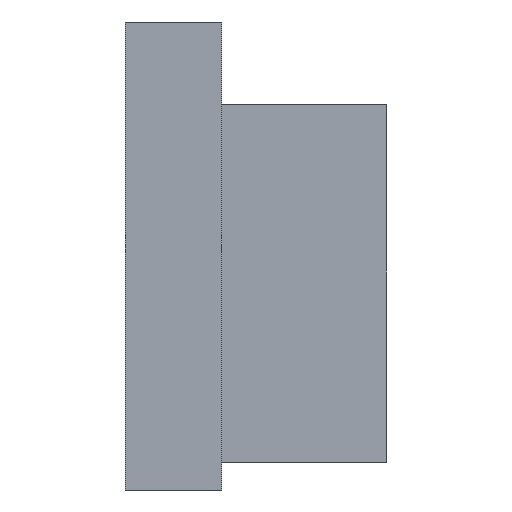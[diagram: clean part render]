
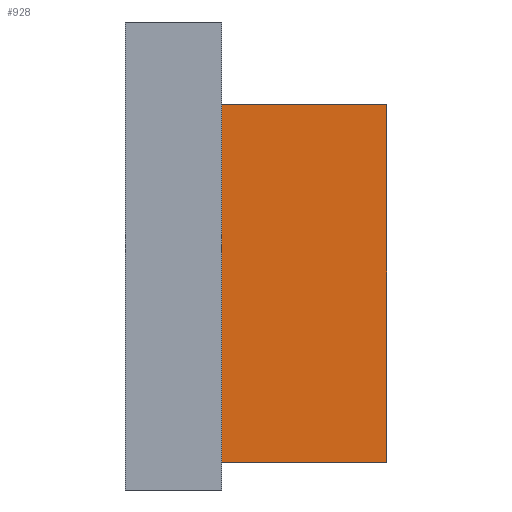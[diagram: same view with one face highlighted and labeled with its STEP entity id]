
A CAD part, left-side view. The second image highlights one B-rep face of the part: STEP entity #928.
In plain terms, the highlighted planar face has unit normal (-1, 0, 0).
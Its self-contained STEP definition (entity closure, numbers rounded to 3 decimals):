
#127 = PLANE('',#128);
#128 = AXIS2_PLACEMENT_3D('',#129,#130,#131);
#129 = CARTESIAN_POINT('',(-17.,-30.,-15.));
#130 = DIRECTION('',(0.,1.,0.));
#131 = DIRECTION('',(0.,-0.,1.));
#683 = VERTEX_POINT('',#684);
#684 = CARTESIAN_POINT('',(-8.,-30.,-14.));
#700 = PLANE('',#701);
#701 = AXIS2_PLACEMENT_3D('',#702,#703,#704);
#702 = CARTESIAN_POINT('',(-8.,-36.,-14.));
#703 = DIRECTION('',(0.,0.,1.));
#704 = DIRECTION('',(1.,0.,-0.));
#712 = EDGE_CURVE('',#713,#683,#715,.T.);
#713 = VERTEX_POINT('',#714);
#714 = CARTESIAN_POINT('',(-8.,-30.,-1.));
#715 = SURFACE_CURVE('',#716,(#720,#727),.PCURVE_S1.);
#716 = LINE('',#717,#718);
#717 = CARTESIAN_POINT('',(-8.,-30.,-15.));
#718 = VECTOR('',#719,1.);
#719 = DIRECTION('',(-0.,0.,-1.));
#720 = PCURVE('',#127,#721);
#721 = DEFINITIONAL_REPRESENTATION('',(#722),#726);
#722 = LINE('',#723,#724);
#723 = CARTESIAN_POINT('',(0.,9.));
#724 = VECTOR('',#725,1.);
#725 = DIRECTION('',(-1.,0.));
#726 = ( GEOMETRIC_REPRESENTATION_CONTEXT(2) 
PARAMETRIC_REPRESENTATION_CONTEXT() REPRESENTATION_CONTEXT('2D SPACE',''
  ) );
#727 = PCURVE('',#728,#733);
#728 = PLANE('',#729);
#729 = AXIS2_PLACEMENT_3D('',#730,#731,#732);
#730 = CARTESIAN_POINT('',(-8.,-36.,-14.));
#731 = DIRECTION('',(1.,0.,-0.));
#732 = DIRECTION('',(-0.,0.,-1.));
#733 = DEFINITIONAL_REPRESENTATION('',(#734),#738);
#734 = LINE('',#735,#736);
#735 = CARTESIAN_POINT('',(1.,6.));
#736 = VECTOR('',#737,1.);
#737 = DIRECTION('',(1.,0.));
#738 = ( GEOMETRIC_REPRESENTATION_CONTEXT(2) 
PARAMETRIC_REPRESENTATION_CONTEXT() REPRESENTATION_CONTEXT('2D SPACE',''
  ) );
#756 = PLANE('',#757);
#757 = AXIS2_PLACEMENT_3D('',#758,#759,#760);
#758 = CARTESIAN_POINT('',(-8.,-36.,-1.));
#759 = DIRECTION('',(0.,0.,1.));
#760 = DIRECTION('',(1.,0.,-0.));
#868 = PLANE('',#869);
#869 = AXIS2_PLACEMENT_3D('',#870,#871,#872);
#870 = CARTESIAN_POINT('',(-8.,-36.,-14.));
#871 = DIRECTION('',(0.,1.,0.));
#872 = DIRECTION('',(0.,-0.,1.));
#885 = VERTEX_POINT('',#886);
#886 = CARTESIAN_POINT('',(-8.,-36.,-14.));
#907 = EDGE_CURVE('',#683,#885,#908,.T.);
#908 = SURFACE_CURVE('',#909,(#913,#920),.PCURVE_S1.);
#909 = LINE('',#910,#911);
#910 = CARTESIAN_POINT('',(-8.,-36.,-14.));
#911 = VECTOR('',#912,1.);
#912 = DIRECTION('',(0.,-1.,-0.));
#913 = PCURVE('',#700,#914);
#914 = DEFINITIONAL_REPRESENTATION('',(#915),#919);
#915 = LINE('',#916,#917);
#916 = CARTESIAN_POINT('',(0.,0.));
#917 = VECTOR('',#918,1.);
#918 = DIRECTION('',(0.,-1.));
#919 = ( GEOMETRIC_REPRESENTATION_CONTEXT(2) 
PARAMETRIC_REPRESENTATION_CONTEXT() REPRESENTATION_CONTEXT('2D SPACE',''
  ) );
#920 = PCURVE('',#728,#921);
#921 = DEFINITIONAL_REPRESENTATION('',(#922),#926);
#922 = LINE('',#923,#924);
#923 = CARTESIAN_POINT('',(0.,0.));
#924 = VECTOR('',#925,1.);
#925 = DIRECTION('',(-0.,-1.));
#926 = ( GEOMETRIC_REPRESENTATION_CONTEXT(2) 
PARAMETRIC_REPRESENTATION_CONTEXT() REPRESENTATION_CONTEXT('2D SPACE',''
  ) );
#928 = ADVANCED_FACE('',(#929),#728,.F.);
#929 = FACE_BOUND('',#930,.T.);
#930 = EDGE_LOOP('',(#931,#932,#955,#976));
#931 = ORIENTED_EDGE('',*,*,#907,.T.);
#932 = ORIENTED_EDGE('',*,*,#933,.F.);
#933 = EDGE_CURVE('',#934,#885,#936,.T.);
#934 = VERTEX_POINT('',#935);
#935 = CARTESIAN_POINT('',(-8.,-36.,-1.));
#936 = SURFACE_CURVE('',#937,(#941,#948),.PCURVE_S1.);
#937 = LINE('',#938,#939);
#938 = CARTESIAN_POINT('',(-8.,-36.,-14.));
#939 = VECTOR('',#940,1.);
#940 = DIRECTION('',(-0.,0.,-1.));
#941 = PCURVE('',#728,#942);
#942 = DEFINITIONAL_REPRESENTATION('',(#943),#947);
#943 = LINE('',#944,#945);
#944 = CARTESIAN_POINT('',(0.,0.));
#945 = VECTOR('',#946,1.);
#946 = DIRECTION('',(1.,0.));
#947 = ( GEOMETRIC_REPRESENTATION_CONTEXT(2) 
PARAMETRIC_REPRESENTATION_CONTEXT() REPRESENTATION_CONTEXT('2D SPACE',''
  ) );
#948 = PCURVE('',#868,#949);
#949 = DEFINITIONAL_REPRESENTATION('',(#950),#954);
#950 = LINE('',#951,#952);
#951 = CARTESIAN_POINT('',(0.,0.));
#952 = VECTOR('',#953,1.);
#953 = DIRECTION('',(-1.,0.));
#954 = ( GEOMETRIC_REPRESENTATION_CONTEXT(2) 
PARAMETRIC_REPRESENTATION_CONTEXT() REPRESENTATION_CONTEXT('2D SPACE',''
  ) );
#955 = ORIENTED_EDGE('',*,*,#956,.F.);
#956 = EDGE_CURVE('',#713,#934,#957,.T.);
#957 = SURFACE_CURVE('',#958,(#962,#969),.PCURVE_S1.);
#958 = LINE('',#959,#960);
#959 = CARTESIAN_POINT('',(-8.,-36.,-1.));
#960 = VECTOR('',#961,1.);
#961 = DIRECTION('',(-0.,-1.,-0.));
#962 = PCURVE('',#728,#963);
#963 = DEFINITIONAL_REPRESENTATION('',(#964),#968);
#964 = LINE('',#965,#966);
#965 = CARTESIAN_POINT('',(-13.,0.));
#966 = VECTOR('',#967,1.);
#967 = DIRECTION('',(0.,-1.));
#968 = ( GEOMETRIC_REPRESENTATION_CONTEXT(2) 
PARAMETRIC_REPRESENTATION_CONTEXT() REPRESENTATION_CONTEXT('2D SPACE',''
  ) );
#969 = PCURVE('',#756,#970);
#970 = DEFINITIONAL_REPRESENTATION('',(#971),#975);
#971 = LINE('',#972,#973);
#972 = CARTESIAN_POINT('',(0.,0.));
#973 = VECTOR('',#974,1.);
#974 = DIRECTION('',(0.,-1.));
#975 = ( GEOMETRIC_REPRESENTATION_CONTEXT(2) 
PARAMETRIC_REPRESENTATION_CONTEXT() REPRESENTATION_CONTEXT('2D SPACE',''
  ) );
#976 = ORIENTED_EDGE('',*,*,#712,.T.);
